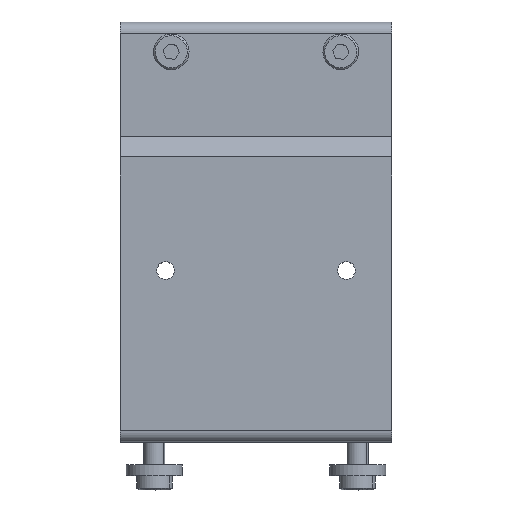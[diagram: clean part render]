
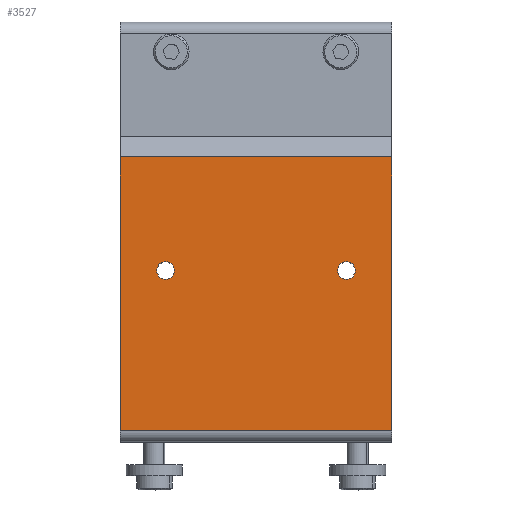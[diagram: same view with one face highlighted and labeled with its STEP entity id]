
A CAD part, top view. The second image highlights one B-rep face of the part: STEP entity #3527.
In plain terms, the highlighted planar face has unit normal (0, 0, 1) as drawn and (0, 0, -1) by its records, which use the part's own axes.
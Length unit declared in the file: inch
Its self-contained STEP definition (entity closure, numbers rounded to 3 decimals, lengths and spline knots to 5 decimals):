
#2635=DIRECTION('',(0.,-1.,0.));
#2636=VECTOR('',#2635,3.03);
#2637=CARTESIAN_POINT('',(-1.5,0.831,-0.6045));
#2638=LINE('',#2637,#2636);
#2733=DIRECTION('',(0.,-1.,0.));
#2734=VECTOR('',#2733,3.03);
#2735=CARTESIAN_POINT('',(1.5,0.831,-0.6045));
#2736=LINE('',#2735,#2734);
#2737=DIRECTION('',(1.,0.,0.));
#2738=VECTOR('',#2737,3.);
#2739=CARTESIAN_POINT('',(-1.5,0.831,-0.6045));
#2740=LINE('',#2739,#2738);
#2741=CARTESIAN_POINT('',(1.,-0.426,-0.6045));
#2742=DIRECTION('',(0.,0.,1.));
#2743=DIRECTION('',(1.,0.,0.));
#2744=AXIS2_PLACEMENT_3D('',#2741,#2742,#2743);
#2746=CARTESIAN_POINT('',(1.,-0.426,-0.6045));
#2747=DIRECTION('',(0.,0.,1.));
#2748=DIRECTION('',(-1.,0.,0.));
#2749=AXIS2_PLACEMENT_3D('',#2746,#2747,#2748);
#2751=CARTESIAN_POINT('',(-1.,-0.426,-0.6045));
#2752=DIRECTION('',(0.,0.,1.));
#2753=DIRECTION('',(1.,0.,0.));
#2754=AXIS2_PLACEMENT_3D('',#2751,#2752,#2753);
#2756=CARTESIAN_POINT('',(-1.,-0.426,-0.6045));
#2757=DIRECTION('',(0.,0.,1.));
#2758=DIRECTION('',(-1.,0.,0.));
#2759=AXIS2_PLACEMENT_3D('',#2756,#2757,#2758);
#2863=DIRECTION('',(1.,0.,0.));
#2864=VECTOR('',#2863,3.);
#2865=CARTESIAN_POINT('',(-1.5,-2.199,-0.6045));
#2866=LINE('',#2865,#2864);
#3159=CARTESIAN_POINT('',(1.097,-0.426,-0.6045));
#3160=CARTESIAN_POINT('',(0.903,-0.426,-0.6045));
#3161=VERTEX_POINT('',#3159);
#3162=VERTEX_POINT('',#3160);
#3179=CARTESIAN_POINT('',(1.5,0.831,-0.6045));
#3180=CARTESIAN_POINT('',(1.5,-2.199,-0.6045));
#3181=VERTEX_POINT('',#3179);
#3182=VERTEX_POINT('',#3180);
#3203=CARTESIAN_POINT('',(-1.5,-2.199,-0.6045));
#3205=VERTEX_POINT('',#3203);
#3285=CARTESIAN_POINT('',(-1.097,-0.426,-0.6045));
#3286=CARTESIAN_POINT('',(-0.903,-0.426,-0.6045));
#3287=VERTEX_POINT('',#3285);
#3288=VERTEX_POINT('',#3286);
#3301=CARTESIAN_POINT('',(-1.5,0.831,-0.6045));
#3302=VERTEX_POINT('',#3301);
#3501=CARTESIAN_POINT('',(1.5,-2.324,-0.6045));
#3502=DIRECTION('',(0.,0.,1.));
#3503=DIRECTION('',(1.,0.,0.));
#3504=AXIS2_PLACEMENT_3D('',#3501,#3502,#3503);
#3505=PLANE('',#3504);
#3507=ORIENTED_EDGE('',*,*,#3506,.F.);
#3509=ORIENTED_EDGE('',*,*,#3508,.F.);
#3510=ORIENTED_EDGE('',*,*,#3451,.T.);
#3512=ORIENTED_EDGE('',*,*,#3511,.T.);
#3513=EDGE_LOOP('',(#3507,#3509,#3510,#3512));
#3514=FACE_OUTER_BOUND('',#3513,.F.);
#3516=ORIENTED_EDGE('',*,*,#3515,.F.);
#3518=ORIENTED_EDGE('',*,*,#3517,.F.);
#3519=EDGE_LOOP('',(#3516,#3518));
#3520=FACE_BOUND('',#3519,.F.);
#3522=ORIENTED_EDGE('',*,*,#3521,.F.);
#3524=ORIENTED_EDGE('',*,*,#3523,.F.);
#3525=EDGE_LOOP('',(#3522,#3524));
#3526=FACE_BOUND('',#3525,.F.);
#2745=CIRCLE('',#2744,0.097);
#2750=CIRCLE('',#2749,0.097);
#2755=CIRCLE('',#2754,0.097);
#2760=CIRCLE('',#2759,0.097);
#3451=EDGE_CURVE('',#3302,#3205,#2638,.T.);
#3506=EDGE_CURVE('',#3181,#3182,#2736,.T.);
#3508=EDGE_CURVE('',#3302,#3181,#2740,.T.);
#3511=EDGE_CURVE('',#3205,#3182,#2866,.T.);
#3515=EDGE_CURVE('',#3161,#3162,#2745,.T.);
#3517=EDGE_CURVE('',#3162,#3161,#2750,.T.);
#3521=EDGE_CURVE('',#3288,#3287,#2755,.T.);
#3523=EDGE_CURVE('',#3287,#3288,#2760,.T.);
#3527=ADVANCED_FACE('',(#3514,#3520,#3526),#3505,.F.);
